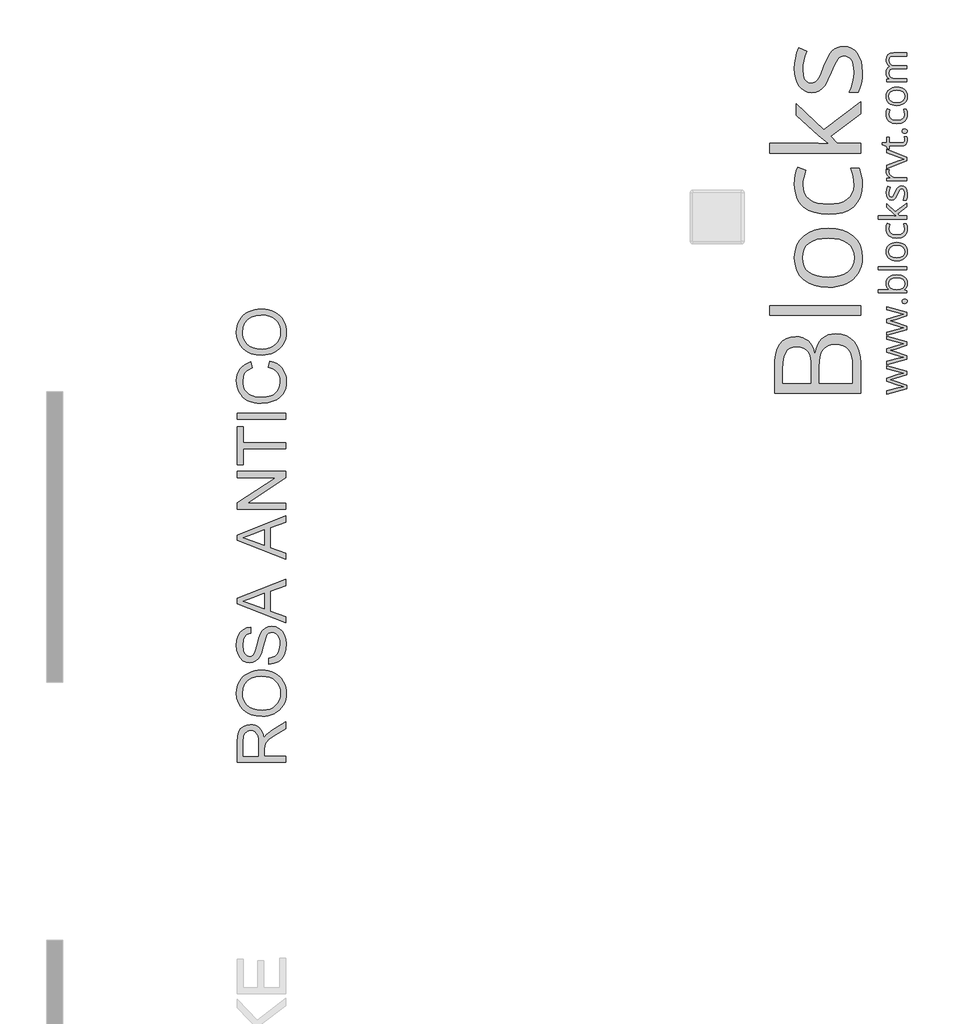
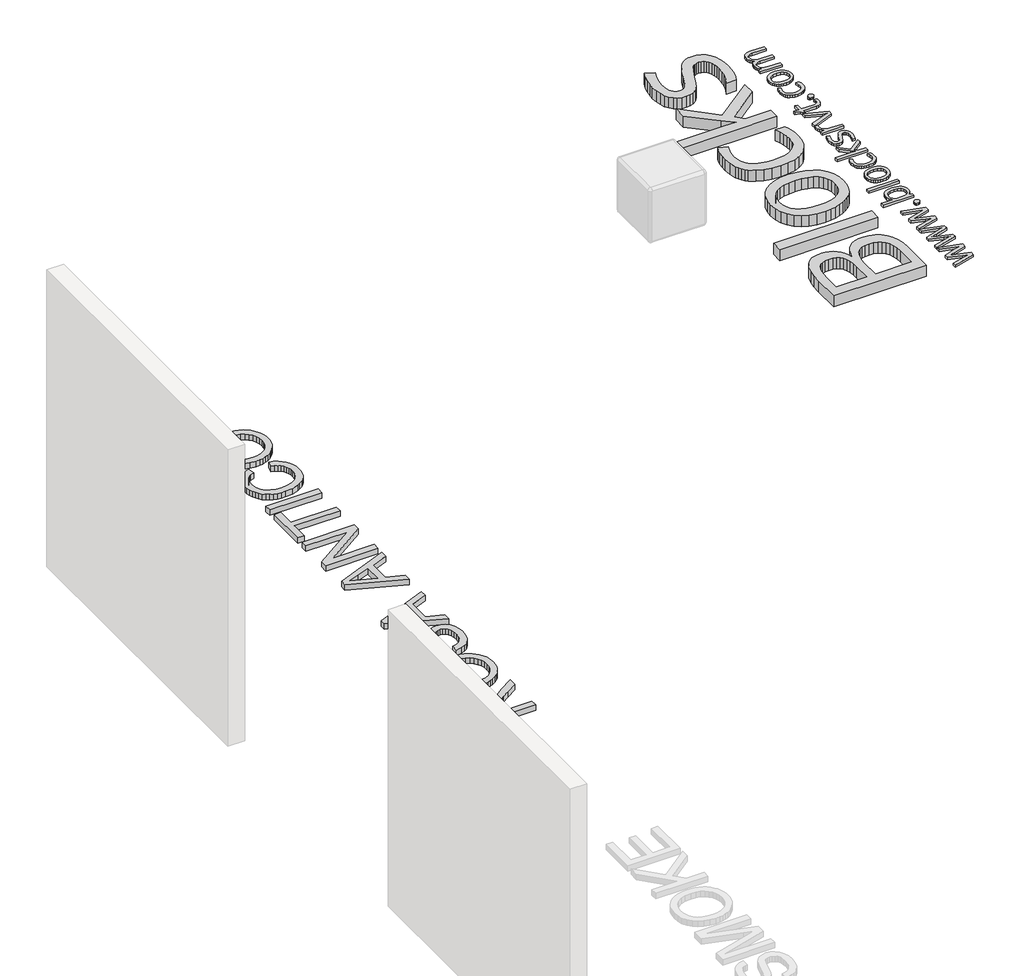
# One storey, part 6 of 6: 3 proxies.
"""IFC4 building model written with IfcOpenShell, lengths in millimetres."""

from ifc_helpers import new_model, si_unit, origin, origin_with_axes, place, context, project, spatial, polyline, outline, extrude, element, save

model = new_model("IFC4")

# Units and contexts
model_context = context("Model", 3, world=origin())
ifc_project = project(units=[si_unit("LENGTHUNIT", "METRE", prefix="MILLI")], contexts=[model_context])

# Site, building, storey
site = spatial("IfcSite", under=ifc_project)
building = spatial("IfcBuilding", under=site)
storey = spatial("IfcBuildingStorey", under=building, Name="PORTOBELLO - SHOWROOM", Elevation=0.0)

# Proxies
placement = place(None, origin())
element("IfcBuildingElementProxy", 1, Name="25mm OpenSans", ObjectType="25mm OpenSans", at=placement, inside=storey, context=model_context, shape_type="SweptSolid", body=[
    extrude(outline(polyline([(-7943.5494981, 11583.3703802), (-8053.3611414, 11548.8902738), (-8099.0847608, 11536.672323), (-8052.9863577, 11523.2550642), (-7943.5494981, 11487.7255632), (-7943.5494981, 11454.8195486), (-8130.6415539, 11403.4741727), (-8130.6415539, 11433.3069605), (-8023.3034834, 11461.0409591), (-7973.6071561, 11471.9846451), (-7998.7926252, 11479.4053636), (-8023.3034834, 11486.7511254), (-8130.6415539, 11521.2312319), (-8130.6415539, 11552.1134142), (-8023.2285267, 11585.7689963), (-7973.9069831, 11598.8114714), (-7992.8710417, 11603.9085306), (-8130.6415539, 11639.6629018), (-8130.6415539, 11669.1958626), (-7943.5494981, 11617.1758759), (-7943.5494981, 11583.3703802)])), origin_with_axes(), (0.0, 0.0, 1.0), 20.0),
    extrude(outline(polyline([(-7943.5494981, 11856.8126157), (-8053.3611414, 11822.3325092), (-8099.0847608, 11810.1145585), (-8052.9863577, 11796.6972996), (-7943.5494981, 11761.1677987), (-7943.5494981, 11728.261784), (-8130.6415539, 11676.9164081), (-8130.6415539, 11706.7491959), (-8023.3034834, 11734.4831945), (-7973.6071561, 11745.4268805), (-7998.7926252, 11752.8475991), (-8023.3034834, 11760.1933609), (-8130.6415539, 11794.6734673), (-8130.6415539, 11825.5556496), (-8023.2285267, 11859.2112318), (-7973.9069831, 11872.2537068), (-7992.8710417, 11877.350766), (-8130.6415539, 11913.1051373), (-8130.6415539, 11942.638098), (-7943.5494981, 11890.6181113), (-7943.5494981, 11856.8126157)])), origin_with_axes(), (0.0, 0.0, 1.0), 20.0),
    extrude(outline(polyline([(-7943.5494981, 12130.2548511), (-8053.3611414, 12095.7747446), (-8099.0847608, 12083.5567939), (-8052.9863577, 12070.1395351), (-7943.5494981, 12034.6100341), (-7943.5494981, 12001.7040195), (-8130.6415539, 11950.3586436), (-8130.6415539, 11980.1914313), (-8023.3034834, 12007.92543), (-7973.6071561, 12018.8691159), (-7998.7926252, 12026.2898345), (-8023.3034834, 12033.6355963), (-8130.6415539, 12068.1157027), (-8130.6415539, 12098.997885), (-8023.2285267, 12132.6534672), (-7973.9069831, 12145.6959422), (-7992.8710417, 12150.7930014), (-8130.6415539, 12186.5473727), (-8130.6415539, 12216.0803334), (-7943.5494981, 12164.0603467), (-7943.5494981, 12130.2548511)])), origin_with_axes(), (0.0, 0.0, 1.0), 20.0),
    extrude(outline(polyline([(-7962.6634701, 12245.2385104), (-7973.0730892, 12246.540884), (-7980.6156125, 12250.4480047), (-7985.1973441, 12256.79122), (-7986.7245879, 12265.401877), (-7985.1973441, 12274.265513), (-7980.6156125, 12280.9179249), (-7973.0730892, 12285.0780247), (-7962.6634701, 12286.4647246), (-7952.4599821, 12285.0499159), (-7944.936198, 12280.8054897), (-7940.2982489, 12274.1249691), (-7938.7522659, 12265.401877), (-7944.336544, 12250.972702), (-7951.7104146, 12246.6720583), (-7962.6634701, 12245.2385104)])), origin_with_axes(), (0.0, 0.0, 1.0), 20.0),
    extrude(outline(polyline([(-8135.4387861, 12433.604831), (-8133.8389279, 12451.1892168), (-8129.0393533, 12466.6888679), (-8121.0400623, 12480.1037843), (-8109.8410549, 12491.433966), (-8095.7187341, 12500.4358036), (-8078.949503, 12506.8656876), (-8037.4703098, 12512.0095948), (-7995.8505726, 12506.8188396), (-7978.9618792, 12500.3303957), (-7964.6873025, 12491.2465742), (-7953.340724, 12479.8625173), (-7945.236025, 12466.4733672), (-7940.3732057, 12451.0791241), (-7938.7522659, 12433.6797877), (-7940.4669016, 12416.036842), (-7945.6108088, 12399.9867272), (-7954.3151618, 12385.979184), (-7966.7111348, 12374.4639528), (-7966.7111348, 12372.3651637), (-7943.5494981, 12366.3686234), (-7943.5494981, 12346.0553433), (-8207.3972691, 12346.0553433), (-8207.3972691, 12374.388996), (-8144.8083803, 12374.388996), (-8107.0301767, 12373.0397745), (-8119.4589433, 12385.5950306), (-8128.3366338, 12399.1996813), (-8133.663248, 12415.2029481), (-8135.4387861, 12433.604831)]), holes=[polyline([(-8111.4526251, 12429.6321231), (-8107.2175686, 12404.3623277), (-8094.5123989, 12387.3190359), (-8071.7817635, 12377.621506), (-8037.4703098, 12374.388996), (-8003.0183121, 12377.7152019), (-7980.0159585, 12387.6938197), (-7967.0578098, 12404.9994601), (-7962.7384269, 12430.3067339), (-7967.5825071, 12453.3840442), (-7982.1147476, 12469.6965076), (-8005.7167552, 12479.3940376), (-8037.7701368, 12482.6265475), (-8070.2170413, 12479.3940376), (-8093.2006557, 12469.6965076), (-8106.8896328, 12453.2153915), (-8111.4526251, 12429.6321231)])]), origin_with_axes(), (0.0, 0.0, 1.0), 20.0),
    extrude(outline(polyline([(-7943.5494981, 12589.2900072), (-7943.5494981, 12560.9563546), (-8207.3972691, 12560.9563546), (-8207.3972691, 12589.2900072), (-7943.5494981, 12589.2900072)])), origin_with_axes(), (0.0, 0.0, 1.0), 20.0),
    extrude(outline(polyline([(-8037.2454395, 12814.2352234), (-8015.3182468, 12812.7946483), (-7995.9348989, 12808.472923), (-7979.0953959, 12801.2700475), (-7964.7997376, 12791.1860218), (-7953.4039687, 12778.5675209), (-7945.2641338, 12763.7612198), (-7940.3802329, 12746.7671184), (-7938.7522659, 12727.5852168), (-7941.7411664, 12703.8895132), (-7950.707868, 12683.023427), (-7965.2588477, 12665.7927434), (-7985.0005826, 12653.0032474), (-8009.230353, 12645.0765708), (-8037.2454395, 12642.4343452), (-8059.1632626, 12643.8632083), (-8078.5185017, 12648.1497976), (-8095.3111568, 12655.2941132), (-8109.5412279, 12665.2961549), (-8120.8714096, 12677.8373567), (-8128.9643966, 12692.5991523), (-8133.8201887, 12709.5815416), (-8135.4387861, 12728.7845248), (-8133.7827103, 12747.3808268), (-8128.8144831, 12763.9673508), (-8120.5341042, 12778.5440969), (-8108.9415739, 12791.1110651), (-8094.5241109, 12801.2278843), (-8077.7689342, 12808.4541838), (-8058.6760437, 12812.7899635), (-8037.2454395, 12814.2352234)]), holes=[polyline([(-8037.4703098, 12671.8923492), (-8005.3138627, 12675.4715342), (-7981.8523989, 12686.209089), (-7967.5169199, 12703.8801436), (-7962.7384269, 12728.2598276), (-7967.4981807, 12752.6582507), (-7981.7774422, 12770.3855228), (-8005.2201667, 12781.1792953), (-8037.4703098, 12784.7772194), (-8069.392517, 12781.1792953), (-8092.6010017, 12770.3855228), (-8106.7397193, 12752.5645548), (-8111.4526251, 12727.8850438), (-8106.8053064, 12703.5522078), (-8092.8633503, 12686.0216972), (-8069.7204528, 12675.4246862), (-8037.4703098, 12671.8923492)])]), origin_with_axes(), (0.0, 0.0, 1.0), 20.0),
    extrude(outline(polyline([(-7938.7522659, 12939.6378714), (-7940.3380697, 12920.2943443), (-7945.0954811, 12903.2651069), (-7953.0245002, 12888.5501593), (-7964.1251268, 12876.1495015), (-7978.1256429, 12866.3114276), (-7994.7543301, 12859.284232), (-8035.896218, 12853.6624755), (-8058.3434231, 12855.0889963), (-8078.0875004, 12859.3685584), (-8095.1284497, 12866.5011619), (-8109.4662712, 12876.4868069), (-8120.8292464, 12889.1099926), (-8128.9456574, 12904.1552184), (-8133.8155039, 12921.6224842), (-8135.4387861, 12941.5117902), (-8132.6653862, 12968.75857), (-8126.1441487, 12990.0837662), (-8102.682685, 12981.3138261), (-8108.9415739, 12960.5882839), (-8111.4526251, 12940.7622227), (-8106.7631432, 12915.54396), (-8092.6946976, 12897.5309153), (-8069.2472883, 12886.7230885), (-8036.4209152, 12883.1204795), (-8004.9578181, 12886.6340773), (-7981.7774422, 12897.1748707), (-7967.4981807, 12914.6116854), (-7962.7384269, 12938.8133471), (-7965.2682173, 12962.7807689), (-7972.8575886, 12987.3103664), (-7948.1968168, 12987.3103664), (-7941.1134036, 12965.9102134), (-7938.7522659, 12939.6378714)])), origin_with_axes(), (0.0, 0.0, 1.0), 20.0),
    extrude(outline(polyline([(-8037.395353, 13058.8940656), (-8065.2792652, 13081.7558753), (-8130.6415539, 13141.7212778), (-8130.6415539, 13175.077033), (-8050.8875686, 13099.8204528), (-7943.5494981, 13180.3240057), (-7943.5494981, 13146.218683), (-8029.8996777, 13080.631524), (-8011.910057, 13059.6436331), (-7943.5494981, 13059.6436331), (-7943.5494981, 13031.6098075), (-8207.3972691, 13031.6098075), (-8207.3972691, 13059.6436331), (-8066.4036165, 13059.6436331), (-8037.395353, 13058.8940656)])), origin_with_axes(), (0.0, 0.0, 1.0), 20.0),
    extrude(outline(polyline([(-7993.995393, 13340.5815439), (-7970.5058204, 13335.6812461), (-7953.1064841, 13320.9803529), (-7942.3408205, 13297.4345629), (-7938.7522659, 13265.9995745), (-7941.7130576, 13232.7000369), (-7950.5954329, 13207.6082638), (-7977.1301235, 13207.6082638), (-7966.5986997, 13236.7664408), (-7962.7384269, 13266.749142), (-7964.5186498, 13286.5658337), (-7969.8593184, 13301.1917701), (-7978.8541288, 13310.2146893), (-7991.5967769, 13313.222329), (-8001.8845912, 13310.8330825), (-8010.5608354, 13303.665343), (-8029.1501102, 13266.449315), (-8046.3901634, 13229.0458952), (-8063.068041, 13212.5179312), (-8085.4426318, 13207.0835666), (-8106.168174, 13211.7683636), (-8122.0215273, 13225.8227548), (-8132.0844714, 13248.0474321), (-8135.4387861, 13277.2430875), (-8132.3280809, 13307.2820063), (-8122.9959651, 13336.6837927), (-8099.8343284, 13326.4896743), (-8108.5480509, 13299.4302864), (-8111.4526251, 13275.0693416), (-8109.8504245, 13257.2483736), (-8105.0438227, 13244.4120296), (-8097.4076035, 13236.6540057), (-8087.3165506, 13234.0679977), (-8074.3115539, 13237.9282705), (-8064.1174355, 13250.4085699), (-8050.0630443, 13283.464498), (-8037.7326584, 13311.5451716), (-8025.3273158, 13328.7758553), (-8011.2729246, 13337.6301217), (-7993.995393, 13340.5815439)])), origin_with_axes(), (0.0, 0.0, 1.0), 20.0),
    extrude(outline(polyline([(-8135.4387861, 13473.0301267), (-8133.5648673, 13495.6670661), (-8108.9040955, 13491.6943582), (-8111.4526251, 13471.0062943), (-8106.7584584, 13449.6717285), (-8092.6759585, 13431.6914773), (-8071.585002, 13419.464157), (-8045.8654661, 13415.3883835), (-7943.5494981, 13415.3883835), (-7943.5494981, 13387.0547308), (-8130.6415539, 13387.0547308), (-8130.6415539, 13410.4412378), (-8097.0609285, 13413.6643782), (-8113.3827615, 13426.6506357), (-8125.4695379, 13440.4239391), (-8132.9464741, 13455.9962045), (-8135.4387861, 13473.0301267)])), origin_with_axes(), (0.0, 0.0, 1.0), 20.0),
    extrude(outline(polyline([(-7943.5494981, 13572.6476516), (-8130.6415539, 13500.6891686), (-8130.6415539, 13531.4963941), (-8019.7055593, 13572.3478246), (-7969.1847077, 13588.5384832), (-8006.6630842, 13601.9557421), (-8130.6415539, 13647.3795344), (-8130.6415539, 13678.18676), (-7943.5494981, 13606.228277), (-7943.5494981, 13572.6476516)])), origin_with_axes(), (0.0, 0.0, 1.0), 20.0),
    extrude(outline(polyline([(-7962.7384269, 13769.5590421), (-7963.8627782, 13784.2505657), (-7966.1864375, 13795.4940786), (-7943.9992386, 13795.4940786), (-7940.251401, 13781.7769928), (-7938.7522659, 13765.5113774), (-7942.3127117, 13741.5064772), (-7952.994049, 13724.3601199), (-7970.7962779, 13714.0723055), (-7995.7193983, 13710.6430341), (-8106.6553929, 13710.6430341), (-8106.6553929, 13683.5086895), (-8120.6723057, 13683.5086895), (-8132.8152998, 13710.4931206), (-8173.8166437, 13722.5611578), (-8173.8166437, 13739.0516435), (-8130.6415539, 13739.0516435), (-8130.6415539, 13794.1448571), (-8106.6553929, 13794.1448571), (-8106.6553929, 13739.0516435), (-7997.4434036, 13739.0516435), (-7982.6113361, 13741.0848455), (-7971.6957589, 13747.1844512), (-7964.9777599, 13756.8445028), (-7962.7384269, 13769.5590421)])), origin_with_axes(), (0.0, 0.0, 1.0), 20.0),
    extrude(outline(polyline([(-7962.6634701, 13828.3251365), (-7973.0730892, 13829.6275101), (-7980.6156125, 13833.5346308), (-7985.1973441, 13839.8778461), (-7986.7245879, 13848.4885031), (-7985.1973441, 13857.3521392), (-7980.6156125, 13864.004551), (-7973.0730892, 13868.1646508), (-7962.6634701, 13869.5513507), (-7952.4599821, 13868.136542), (-7944.936198, 13863.8921159), (-7940.2982489, 13857.2115952), (-7938.7522659, 13848.4885031), (-7944.336544, 13834.0593281), (-7951.7104146, 13829.7586844), (-7962.6634701, 13828.3251365)])), origin_with_axes(), (0.0, 0.0, 1.0), 20.0),
    extrude(outline(polyline([(-7938.7522659, 14004.6234199), (-7940.3380697, 13985.2798928), (-7945.0954811, 13968.2506554), (-7953.0245002, 13953.5357078), (-7964.1251268, 13941.13505), (-7978.1256429, 13931.2969761), (-7994.7543301, 13924.2697805), (-8035.896218, 13918.648024), (-8058.3434231, 13920.0745447), (-8078.0875004, 13924.3541069), (-8095.1284497, 13931.4867104), (-8109.4662712, 13941.4723554), (-8120.8292464, 13954.0955411), (-8128.9456574, 13969.1407669), (-8133.8155039, 13986.6080327), (-8135.4387861, 14006.4973387), (-8132.6653862, 14033.7441185), (-8126.1441487, 14055.0693147), (-8102.682685, 14046.2993746), (-8108.9415739, 14025.5738324), (-8111.4526251, 14005.7477712), (-8106.7631432, 13980.5295085), (-8092.6946976, 13962.5164638), (-8069.2472883, 13951.708637), (-8036.4209152, 13948.106028), (-8004.9578181, 13951.6196258), (-7981.7774422, 13962.1604192), (-7967.4981807, 13979.5972339), (-7962.7384269, 14003.7988956), (-7965.2682173, 14027.7663174), (-7972.8575886, 14052.2959149), (-7948.1968168, 14052.2959149), (-7941.1134036, 14030.8957618), (-7938.7522659, 14004.6234199)])), origin_with_axes(), (0.0, 0.0, 1.0), 20.0),
    extrude(outline(polyline([(-8037.2454395, 14258.2021157), (-8015.3182468, 14256.7615406), (-7995.9348989, 14252.4398153), (-7979.0953959, 14245.2369398), (-7964.7997376, 14235.1529141), (-7953.4039687, 14222.5344132), (-7945.2641338, 14207.7281121), (-7940.3802329, 14190.7340107), (-7938.7522659, 14171.5521091), (-7941.7411664, 14147.8564055), (-7950.707868, 14126.9903194), (-7965.2588477, 14109.7596357), (-7985.0005826, 14096.9701397), (-8009.230353, 14089.0434631), (-8037.2454395, 14086.4012375), (-8059.1632626, 14087.8301006), (-8078.5185017, 14092.11669), (-8095.3111568, 14099.2610055), (-8109.5412279, 14109.2630472), (-8120.8714096, 14121.804249), (-8128.9643966, 14136.5660446), (-8133.8201887, 14153.548434), (-8135.4387861, 14172.7514171), (-8133.7827103, 14191.3477191), (-8128.8144831, 14207.9342431), (-8120.5341042, 14222.5109892), (-8108.9415739, 14235.0779574), (-8094.5241109, 14245.1947766), (-8077.7689342, 14252.4210761), (-8058.6760437, 14256.7568558), (-8037.2454395, 14258.2021157)]), holes=[polyline([(-8037.4703098, 14115.8592415), (-8005.3138627, 14119.4384265), (-7981.8523989, 14130.1759814), (-7967.5169199, 14147.8470359), (-7962.7384269, 14172.2267199), (-7967.4981807, 14196.625143), (-7981.7774422, 14214.3524151), (-8005.2201667, 14225.1461876), (-8037.4703098, 14228.7441117), (-8069.392517, 14225.1461876), (-8092.6010017, 14214.3524151), (-8106.7397193, 14196.5314471), (-8111.4526251, 14171.8519361), (-8106.8053064, 14147.5191001), (-8092.8633503, 14129.9885895), (-8069.7204528, 14119.3915785), (-8037.4703098, 14115.8592415)])]), origin_with_axes(), (0.0, 0.0, 1.0), 20.0),
    extrude(outline(polyline([(-7943.5494981, 14547.2353558), (-8066.3286597, 14547.2353558), (-8086.0703946, 14544.8367397), (-8100.1716338, 14537.6408914), (-8108.6323773, 14525.3854623), (-8111.4526251, 14507.8081036), (-8107.6204611, 14484.7401629), (-8096.1239691, 14468.6057218), (-8076.6633221, 14459.1049533), (-8048.938693, 14455.9380305), (-7943.5494981, 14455.9380305), (-7943.5494981, 14427.529421), (-8066.3286597, 14427.529421), (-8086.0703946, 14425.1308049), (-8100.1716338, 14417.9349566), (-8108.6323773, 14405.6420491), (-8111.4526251, 14387.9522554), (-8107.4236996, 14364.7718795), (-8095.3369232, 14348.7498735), (-8074.0866837, 14339.4177577), (-8042.567369, 14336.3070525), (-7943.5494981, 14336.3070525), (-7943.5494981, 14307.9733998), (-8130.6415539, 14307.9733998), (-8130.6415539, 14331.0600798), (-8106.6553929, 14335.6324417), (-8118.7327998, 14346.7166716), (-8127.8306757, 14359.7310378), (-8133.5367585, 14375.2564553), (-8135.4387861, 14392.5246173), (-8133.4711713, 14412.6223968), (-8127.568327, 14428.916121), (-8117.7302532, 14441.40579), (-8103.9569498, 14450.0914037), (-8116.9806857, 14461.7190701), (-8126.968673, 14475.7640917), (-8133.3212578, 14492.8073834), (-8135.4387861, 14512.0806386), (-8131.3349039, 14539.936442), (-8119.0232572, 14559.7906119), (-8097.6793217, 14571.6806269), (-8066.4785732, 14575.6439652), (-7943.5494981, 14575.6439652), (-7943.5494981, 14547.2353558)])), origin_with_axes(), (0.0, 0.0, 1.0), 20.0),
])
element("IfcBuildingElementProxy", 2, Name="450mm Arial", ObjectType="450mm Arial", at=placement, inside=storey, context=model_context, shape_type="SweptSolid", body=[
    extrude(outline(polyline([(-13720.1829319, 7978.7709195), (-14169.8390747, 7978.7709195), (-14169.8390747, 8172.53144), (-14166.8064207, 8224.6080105), (-14157.7084586, 8262.4956024), (-14140.9122208, 8290.1874388), (-14114.7847399, 8311.676743), (-14082.3861146, 8325.4677715), (-14046.7764438, 8330.0647811), (-14023.6816169, 8328.1607958), (-14002.4804835, 8322.4488399), (-13983.1730435, 8312.9289135), (-13965.759297, 8299.6010165), (-13950.7950019, 8282.2936187), (-13938.8359159, 8260.83519), (-13929.8820392, 8235.2257302), (-13923.9333716, 8205.4652395), (-13899.891698, 8237.4110251), (-13842.0379901, 8282.9694477), (-13720.1829319, 8357.9487313), (-13720.1829319, 8292.6300289), (-13813.3855846, 8234.1176451), (-13875.081569, 8191.8526024), (-13893.071657, 8176.1404355), (-13904.2279816, 8162.1572932), (-13914.9314664, 8135.4260259), (-13916.9074944, 8102.8215644), (-13916.9074944, 8034.9779373), (-13720.1829319, 8034.9779373), (-13720.1829319, 7978.7709195)]), holes=[polyline([(-13973.1145122, 8034.9779373), (-13973.1145122, 8160.7850515), (-13975.1042626, 8196.9161741), (-13981.0735138, 8224.9510709), (-13991.4202158, 8246.0561474), (-14006.5423188, 8261.3978091), (-14024.8342999, 8270.7427747), (-14044.6906365, 8273.8577632), (-14059.0648678, 8272.3723116), (-14072.1080246, 8267.9159569), (-14094.2011152, 8250.0905379), (-14102.7021522, 8236.4813314), (-14108.7743214, 8219.4209371), (-14113.6320569, 8174.9465853), (-14113.6320569, 8034.9779373), (-13973.1145122, 8034.9779373)])]), origin_with_axes(), (0.0, 0.0, 1.0), 50.0),
    extrude(outline(polyline([(-13939.0829194, 8407.3494306), (-13991.8250271, 8411.0956503), (-14038.5155491, 8422.3343094), (-14079.1544855, 8441.0654079), (-14113.7418362, 8467.2889457), (-14141.3581994, 8499.4337063), (-14161.084173, 8535.9284729), (-14172.9197572, 8576.7732455), (-14176.864952, 8621.9680242), (-14175.0124257, 8652.2190913), (-14169.4548471, 8680.9469701), (-14160.192216, 8708.1516608), (-14147.2245324, 8733.8331632), (-14130.9428853, 8757.2710505), (-14111.7383634, 8777.7448959), (-14089.6109669, 8795.2546993), (-14064.5606956, 8809.8004608), (-14037.1570299, 8821.2312337), (-14007.9694501, 8829.3960715), (-13976.9979561, 8834.2949742), (-13944.242548, 8835.9279417), (-13911.0548838, 8834.2092091), (-13879.6648561, 8829.0530111), (-13850.072465, 8820.4593478), (-13822.2777104, 8808.4282191), (-13797.0147417, 8793.2443653), (-13775.0177081, 8775.1925264), (-13756.2866096, 8754.2727025), (-13740.8214463, 8730.4848936), (-13728.718275, 8704.7656545), (-13720.0731526, 8678.0515403), (-13714.8860792, 8650.3425508), (-13713.1570547, 8621.6386862), (-13715.0679012, 8590.859306), (-13720.8004407, 8561.7540607), (-13730.3546731, 8534.3229502), (-13743.7305986, 8508.5659745), (-13760.4101958, 8485.155532), (-13779.8754435, 8464.7640211), (-13802.1263418, 8447.3914419), (-13827.1628907, 8433.0377942), (-13853.9799231, 8421.7991351), (-13881.572272, 8413.7715215), (-13909.9399374, 8408.9549533), (-13939.0829194, 8407.3494306)]), holes=[polyline([(-13938.5340227, 8463.5564485), (-13901.2708008, 8466.3661132), (-13868.1929159, 8474.7951075), (-13839.3003681, 8488.8434314), (-13814.5931572, 8508.5110848), (-13794.8054327, 8532.4189649), (-13780.6713437, 8559.1879688), (-13772.1908903, 8588.8180966), (-13769.3640725, 8621.3093482), (-13772.2183352, 8654.3563576), (-13780.781123, 8684.336407), (-13795.0524362, 8711.2494963), (-13815.0322745, 8735.0956255), (-13840.2609372, 8754.6191936), (-13870.2787232, 8768.5645993), (-13905.0856326, 8776.9318427), (-13944.6816653, 8779.7209239), (-13994.4391474, 8774.9455229), (-14037.4452006, 8760.6193202), (-14072.6157541, 8737.1128207), (-14098.8667368, 8704.79653), (-14115.2101348, 8665.8111448), (-14120.6579341, 8622.2973622), (-14118.033522, 8590.9347793), (-14110.1602855, 8561.8363952), (-14097.0382248, 8535.0022098), (-14078.6673397, 8510.4322231), (-14054.1625345, 8489.9240717), (-14022.6387133, 8475.2753921), (-13984.095876, 8466.4861844), (-13938.5340227, 8463.5564485)])]), origin_with_axes(), (0.0, 0.0, 1.0), 50.0),
    extrude(outline(polyline([(-13874.752231, 8892.1349596), (-13874.752231, 8948.3419774), (-13843.5611784, 8954.7915132), (-13818.4903235, 8966.4555672), (-13798.5928196, 8984.6514914), (-13782.92182, 9010.6966379), (-13772.7535094, 9042.5326441), (-13769.3640725, 9078.1011476), (-13771.9301644, 9109.4157019), (-13779.6284401, 9136.83309), (-13791.8139459, 9159.0496823), (-13807.8417283, 9174.7618492), (-13826.2434888, 9184.1068148), (-13845.5509288, 9187.2218033), (-13864.3643617, 9184.8889925), (-13880.6254253, 9177.8905601), (-13894.4987883, 9163.6741366), (-13906.1491199, 9139.6873527), (-13927.6109792, 9057.8468608), (-13941.8136803, 9004.1236004), (-13955.3302605, 8969.7489471), (-13974.2397504, 8941.7689399), (-13997.1561859, 8921.9400481), (-14023.58556, 8910.1250476), (-14053.0338658, 8906.186714), (-14085.9539429, 8911.0581719), (-14116.6509885, 8925.6725454), (-14142.6686901, 8949.645607), (-14161.5507352, 8982.5931289), (-14173.0363978, 9022.1411332), (-14176.864952, 9065.9156417), (-14172.8580064, 9113.340313), (-14160.8371695, 9154.8369004), (-14141.049445, 9188.9233829), (-14113.7418362, 9214.1177396), (-14080.6159229, 9230.0631875), (-14043.3732846, 9236.4029439), (-14043.3732846, 9180.1959261), (-14061.3084829, 9176.435984), (-14076.9108704, 9169.8766689), (-14090.1804471, 9160.5179809), (-14101.1172131, 9148.3599199), (-14109.6662785, 9133.176066), (-14115.7727538, 9114.7399995), (-14120.6579341, 9068.1112284), (-14115.8276435, 9020.3846639), (-14109.7897803, 9002.1407112), (-14101.3367717, 8987.6429782), (-14080.0121365, 8968.7060435), (-14067.8472143, 8963.9718098), (-14054.6805557, 8962.3937319), (-14033.0814722, 8966.8672397), (-14015.708893, 8980.287763), (-14000.1751175, 9012.0139898), (-13984.3120041, 9072.0632843), (-13969.2447908, 9134.0337171), (-13956.0987158, 9171.5233589), (-13935.707205, 9203.5652013), (-13910.5402932, 9225.9190177), (-13880.8724288, 9239.0513703), (-13846.9780601, 9243.4288212), (-13812.3289585, 9238.3926943), (-13779.7382194, 9223.2843138), (-13751.6896001, 9198.7211883), (-13730.6668581, 9165.3208266), (-13717.5345055, 9125.1553136), (-13713.1570547, 9080.2967342), (-13717.8775659, 9025.2286769), (-13732.0390997, 8979.9035353), (-13742.6739725, 8960.7641949), (-13755.6965457, 8943.7998576), (-13771.1068194, 8929.0105232), (-13788.9047936, 8916.3961919), (-13829.3584773, 8898.804054), (-13874.752231, 8892.1349596)])), origin_with_axes(), (0.0, 0.0, 1.0), 50.0),
    extrude(outline(polyline([(-13720.1829319, 9275.3746067), (-14169.8390747, 9454.8638141), (-14169.8390747, 9502.7276027), (-13720.1829319, 9682.2168101), (-13720.1829319, 9622.8261917), (-13860.7004765, 9571.3396851), (-13860.7004765, 9386.1419524), (-13720.1829319, 9334.7652252), (-13720.1829319, 9275.3746067)]), holes=[polyline([(-13916.9074944, 9406.7804668), (-13916.9074944, 9550.81095), (-14027.4552815, 9510.3023766), (-14113.6320569, 9478.7957084), (-14037.1158627, 9450.8019788), (-13916.9074944, 9406.7804668)])]), origin_with_axes(), (0.0, 0.0, 1.0), 50.0),
    extrude(outline(polyline([(-13720.1829319, 9865.5482941), (-14169.8390747, 10045.0375015), (-14169.8390747, 10092.9012902), (-13720.1829319, 10272.3904976), (-13720.1829319, 10212.9998791), (-13860.7004765, 10161.5133725), (-13860.7004765, 9976.3156399), (-13720.1829319, 9924.9389126), (-13720.1829319, 9865.5482941)]), holes=[polyline([(-13916.9074944, 9996.9541542), (-13916.9074944, 10140.9846375), (-14027.4552815, 10100.4760641), (-14113.6320569, 10068.9693959), (-14037.1158627, 10040.9756663), (-13916.9074944, 9996.9541542)])]), origin_with_axes(), (0.0, 0.0, 1.0), 50.0),
    extrude(outline(polyline([(-13720.1829319, 10332.439792), (-14169.8390747, 10332.439792), (-14169.8390747, 10392.5988658), (-13813.6051432, 10627.5266358), (-14169.8390747, 10627.5266358), (-14169.8390747, 10683.7336536), (-13720.1829319, 10683.7336536), (-13720.1829319, 10623.5745798), (-14076.5266427, 10388.6468099), (-13720.1829319, 10388.6468099), (-13720.1829319, 10332.439792)])), origin_with_axes(), (0.0, 0.0, 1.0), 50.0),
    extrude(outline(polyline([(-13720.1829319, 10894.5099706), (-14113.6320569, 10894.5099706), (-14113.6320569, 10746.9665487), (-14169.8390747, 10746.9665487), (-14169.8390747, 11098.2604103), (-14113.6320569, 11098.2604103), (-14113.6320569, 10950.7169884), (-13720.1829319, 10950.7169884), (-13720.1829319, 10894.5099706)])), origin_with_axes(), (0.0, 0.0, 1.0), 50.0),
    extrude(outline(polyline([(-13720.1829319, 11168.5191826), (-14169.8390747, 11168.5191826), (-14169.8390747, 11224.7262004), (-13720.1829319, 11224.7262004), (-13720.1829319, 11168.5191826)])), origin_with_axes(), (0.0, 0.0, 1.0), 50.0),
    extrude(outline(polyline([(-13880.0216389, 11653.3047116), (-13865.5307671, 11709.5117294), (-13830.5763418, 11698.3897109), (-13800.0336733, 11683.5763623), (-13773.9027618, 11665.0716837), (-13752.1836071, 11642.8756751), (-13735.1094904, 11617.4892046), (-13722.9136928, 11589.4131405), (-13715.5962142, 11558.6474828), (-13713.1570547, 11525.1922314), (-13715.0027197, 11490.9170657), (-13720.5397147, 11459.9970308), (-13729.7680398, 11432.4321267), (-13742.6876949, 11408.2223535), (-13759.1065662, 11387.0349424), (-13778.8325399, 11368.537125), (-13801.8656159, 11352.7289013), (-13828.2057943, 11339.6102711), (-13886.251616, 11321.9495211), (-13948.4141626, 11316.0626045), (-13982.3153925, 11317.7264475), (-14013.9798685, 11322.7179764), (-14043.4075906, 11331.0371914), (-14070.5985588, 11342.6840924), (-14095.103364, 11357.3979535), (-14116.4725971, 11374.9180487), (-14134.706258, 11395.2443781), (-14149.8043467, 11418.3769416), (-14161.6433615, 11443.530131), (-14170.0998006, 11469.9183379), (-14175.1736641, 11497.5415622), (-14176.864952, 11526.3998041), (-14174.6762265, 11558.5479953), (-14168.1100503, 11588.0271764), (-14157.1664231, 11614.8373476), (-14141.8453451, 11638.9785088), (-14122.5516276, 11660.0527099), (-14099.6900817, 11677.6620008), (-14073.2607076, 11691.8063816), (-14043.2635052, 11702.4858522), (-14029.8704268, 11646.2788343), (-14070.8592847, 11626.793003), (-14086.5268537, 11614.374216), (-14098.9765161, 11600.171515), (-14108.4621365, 11584.1025653), (-14115.2375796, 11566.0850325), (-14120.6579341, 11524.2042174), (-14119.1553295, 11498.9892772), (-14114.6475157, 11475.9287563), (-14107.1344927, 11455.0226548), (-14096.6162605, 11436.2709727), (-14083.5662424, 11419.9104217), (-14068.4578619, 11406.1777134), (-14051.2911189, 11395.0728479), (-14032.0660134, 11386.5958251), (-13990.9262088, 11375.851173), (-13948.5239419, 11372.2696223), (-13896.598318, 11376.509849), (-13851.6985713, 11389.2305291), (-13832.3122275, 11398.8911103), (-13815.5400039, 11410.9119471), (-13801.3819008, 11425.2930395), (-13789.8379179, 11442.0343876), (-13774.4825339, 11479.345638), (-13769.3640725, 11519.5934855), (-13771.1068194, 11544.0296786), (-13776.3350601, 11566.5104274), (-13785.0487946, 11587.0357318), (-13797.2480228, 11605.6055919), (-13812.8778552, 11621.7808903), (-13831.883402, 11635.1225097), (-13854.2646632, 11645.6304502), (-13880.0216389, 11653.3047116)])), origin_with_axes(), (0.0, 0.0, 1.0), 50.0),
    extrude(outline(polyline([(-13939.0829194, 11765.7187473), (-13991.8250271, 11769.464967), (-14038.5155491, 11780.7036261), (-14079.1544855, 11799.4347245), (-14113.7418362, 11825.6582624), (-14141.3581994, 11857.803023), (-14161.084173, 11894.2977896), (-14172.9197572, 11935.1425622), (-14176.864952, 11980.3373408), (-14175.0124257, 12010.5884079), (-14169.4548471, 12039.3162868), (-14160.192216, 12066.5209775), (-14147.2245324, 12092.2024799), (-14130.9428853, 12115.6403672), (-14111.7383634, 12136.1142126), (-14089.6109669, 12153.624016), (-14064.5606956, 12168.1697774), (-14037.1570299, 12179.6005504), (-14007.9694501, 12187.7653882), (-13976.9979561, 12192.6642908), (-13944.242548, 12194.2972584), (-13911.0548838, 12192.5785257), (-13879.6648561, 12187.4223277), (-13850.072465, 12178.8286644), (-13822.2777104, 12166.7975358), (-13797.0147417, 12151.613682), (-13775.0177081, 12133.5618431), (-13756.2866096, 12112.6420192), (-13740.8214463, 12088.8542103), (-13728.718275, 12063.1349712), (-13720.0731526, 12036.4208569), (-13714.8860792, 12008.7118675), (-13713.1570547, 11980.0080028), (-13715.0679012, 11949.2286227), (-13720.8004407, 11920.1233774), (-13730.3546731, 11892.6922668), (-13743.7305986, 11866.9352911), (-13760.4101958, 11843.5248486), (-13779.8754435, 11823.1333378), (-13802.1263418, 11805.7607585), (-13827.1628907, 11791.4071109), (-13853.9799231, 11780.1684518), (-13881.572272, 11772.1408382), (-13909.9399374, 11767.32427), (-13939.0829194, 11765.7187473)]), holes=[polyline([(-13938.5340227, 11821.9257651), (-13901.2708008, 11824.7354299), (-13868.1929159, 11833.1644242), (-13839.3003681, 11847.2127481), (-13814.5931572, 11866.8804015), (-13794.8054327, 11890.7882816), (-13780.6713437, 11917.5572855), (-13772.1908903, 11947.1874132), (-13769.3640725, 11979.6786648), (-13772.2183352, 12012.7256743), (-13780.781123, 12042.7057237), (-13795.0524362, 12069.618813), (-13815.0322745, 12093.4649422), (-13840.2609372, 12112.9885102), (-13870.2787232, 12126.933916), (-13905.0856326, 12135.3011594), (-13944.6816653, 12138.0902405), (-13994.4391474, 12133.3148396), (-14037.4452006, 12118.9886368), (-14072.6157541, 12095.4821374), (-14098.8667368, 12063.1658466), (-14115.2101348, 12024.1804614), (-14120.6579341, 11980.6666788), (-14118.033522, 11949.304096), (-14110.1602855, 11920.2057119), (-14097.0382248, 11893.3715265), (-14078.6673397, 11868.8015398), (-14054.1625345, 11848.2933884), (-14022.6387133, 11833.6447088), (-13984.095876, 11824.855501), (-13938.5340227, 11821.9257651)])]), origin_with_axes(), (0.0, 0.0, 1.0), 50.0),
])
element("IfcBuildingElementProxy", 3, Name="80mm OpenSans", ObjectType="80mm OpenSans", at=placement, inside=storey, context=model_context, shape_type="SweptSolid", body=[
    extrude(outline(polyline([(-9172.9329051, 11412.5162261), (-9172.9329051, 11637.4993467), (-9169.9959259, 11711.3294446), (-9161.1849884, 11774.1777943), (-9146.5000925, 11826.0443958), (-9125.9412383, 11866.9292491), (-9099.0427155, 11897.8989809), (-9065.3388139, 11920.0202178), (-9024.8295334, 11933.29296), (-8977.5148741, 11937.7172074), (-8943.8560412, 11935.2459385), (-8913.3069509, 11927.8321318), (-8885.8676033, 11915.4757872), (-8861.5379983, 11898.1769047), (-8840.7538005, 11876.1458052), (-8823.9506741, 11849.5928094), (-8811.1286192, 11818.5179172), (-8802.2876359, 11782.9211287), (-8796.9995711, 11782.9211287), (-8787.0844496, 11825.4547465), (-8773.0830962, 11862.3172153), (-8754.9955109, 11893.508535), (-8732.8216938, 11919.0287057), (-8706.5616447, 11938.8777273), (-8676.2153637, 11953.0555999), (-8641.7828509, 11961.5623235), (-8603.2641062, 11964.397898), (-8552.0284669, 11959.8835132), (-8506.7268777, 11946.3403586), (-8467.3593385, 11923.7684342), (-8433.9258493, 11892.1677402), (-8407.267693, 11852.4696969), (-8388.2261529, 11805.6057249), (-8376.8012288, 11751.5758242), (-8372.9929208, 11690.3799947), (-8372.9929208, 11412.5162261), (-9172.9329051, 11412.5162261)]), holes=[polyline([(-8834.4967579, 11505.5380933), (-8834.4967579, 11657.449773), (-8836.427202, 11702.9316372), (-8842.2185343, 11741.5480308), (-8851.8707549, 11773.298954), (-8865.3838636, 11798.1844067), (-8883.4639375, 11816.9555344), (-8906.8170532, 11830.3634828), (-8935.4432108, 11838.4082519), (-8969.3424103, 11841.0898415), (-9000.5449972, 11838.1002822), (-9027.0904816, 11829.1316041), (-9048.9788634, 11814.1838073), (-9066.2101428, 11793.2568918), (-9079.2500298, 11765.8250556), (-9088.5642349, 11731.3624969), (-9094.1527579, 11689.8692157), (-9096.0155989, 11641.345212), (-9096.0155989, 11505.5380933), (-8834.4967579, 11505.5380933)]), polyline([(-8757.5794517, 11505.5380933), (-8449.9102269, 11505.5380933), (-8449.9102269, 11671.1506682), (-8452.3214042, 11716.2569596), (-8459.554936, 11755.4292009), (-8471.6108224, 11788.6673923), (-8488.4890633, 11815.9715337), (-8510.490117, 11837.2665106), (-8537.9144417, 11852.4772084), (-8570.7620374, 11861.603627), (-8609.0329041, 11864.6457666), (-8644.7273415, 11861.5360239), (-8675.3740807, 11852.206796), (-8700.9731217, 11836.6580827), (-8721.5244644, 11814.8898841), (-8737.2985213, 11786.782017), (-8748.5657049, 11752.2142979), (-8755.326015, 11711.186727), (-8757.5794517, 11663.6993042), (-8757.5794517, 11505.5380933)])]), origin_with_axes(), (0.0, 0.0, 1.0), 100.0),
    extrude(outline(polyline([(-8372.9929208, 12226.1571056), (-8372.9929208, 12135.2985377), (-9219.0832888, 12135.2985377), (-9219.0832888, 12226.1571056), (-8372.9929208, 12226.1571056)])), origin_with_axes(), (0.0, 0.0, 1.0), 100.0),
    extrude(outline(polyline([(-8673.451148, 12947.4972177), (-8603.1364114, 12942.8776725), (-8540.9791156, 12929.0190367), (-8486.9792607, 12905.9213105), (-8441.1368467, 12873.5844938), (-8404.5936148, 12833.120282), (-8378.4913063, 12785.6403707), (-8362.8299212, 12731.1447597), (-8357.6094595, 12669.6334491), (-8360.0056139, 12630.5062765), (-8367.194077, 12593.6475634), (-8379.1748488, 12559.05731), (-8395.9479293, 12526.7355162), (-8417.1978375, 12497.3281672), (-8442.609092, 12471.4812482), (-8472.181693, 12449.1947592), (-8505.9156405, 12430.4687002), (-8543.2475753, 12415.6410867), (-8583.6141381, 12405.0499342), (-8627.015329, 12398.6952427), (-8673.451148, 12396.5770122), (-8743.7358389, 12401.1590001), (-8805.8029972, 12414.904964), (-8859.652623, 12437.8149038), (-8905.2847162, 12469.8888196), (-8941.6176274, 12510.1051533), (-8967.5697067, 12557.442347), (-8983.1409544, 12611.9004007), (-8988.3313702, 12673.4793144), (-8983.0207711, 12733.1127611), (-8967.0889736, 12786.3013788), (-8940.5359777, 12833.0451675), (-8903.3617836, 12873.3441272), (-8857.1287738, 12905.7861043), (-8803.3993314, 12928.9589451), (-8742.1734561, 12942.8626495), (-8673.451148, 12947.4972177)]), holes=[polyline([(-8674.1722478, 12491.0410788), (-8619.1283006, 12493.9104549), (-8571.0549842, 12502.5185831), (-8529.9522987, 12516.8654634), (-8495.8202441, 12536.9510959), (-8469.0043473, 12562.5952056), (-8449.8501353, 12593.6175176), (-8438.3576081, 12630.0180318), (-8434.5267657, 12671.7967483), (-8438.3425852, 12713.5904878), (-8449.7900437, 12750.0360707), (-8468.8691411, 12781.1334973), (-8495.5798775, 12806.8827673), (-8529.6368176, 12827.0735602), (-8570.754526, 12841.4955551), (-8618.9330027, 12850.1487521), (-8674.1722478, 12853.033151), (-8728.8481337, 12850.1487521), (-8776.5383658, 12841.4955551), (-8817.2429442, 12827.0735602), (-8850.9618687, 12806.8827673), (-8877.4097042, 12781.0583827), (-8896.3010152, 12749.7356125), (-8907.6358019, 12712.9144568), (-8911.4140641, 12670.5949154), (-8907.688382, 12628.8537562), (-8896.511336, 12592.5659138), (-8877.8829259, 12561.7313882), (-8851.8031518, 12536.3501795), (-8818.3471282, 12516.5274479), (-8777.5899696, 12502.368354), (-8729.5316762, 12493.8728976), (-8674.1722478, 12491.0410788)])]), origin_with_axes(), (0.0, 0.0, 1.0), 100.0),
    extrude(outline(polyline([(-8357.6094595, 13349.6305091), (-8362.694715, 13287.6009081), (-8377.9504815, 13232.9926253), (-8403.376759, 13185.8056607), (-8438.9735475, 13146.0400143), (-8483.8695181, 13114.4919004), (-8537.193342, 13091.9575334), (-8598.9450191, 13078.4369132), (-8669.1245496, 13073.9300397), (-8741.1068294, 13078.5045163), (-8804.4208893, 13092.2279458), (-8859.0667294, 13115.1003283), (-8905.0443496, 13147.1216639), (-8924.5647451, 13166.3904256), (-8941.4824212, 13187.6008986), (-8955.7973778, 13210.7530829), (-8967.5096151, 13235.8469784), (-8983.1259315, 13291.8599035), (-8988.3313702, 13355.6396737), (-8986.1079794, 13399.3563457), (-8979.4378067, 13443.0129261), (-8969.7630518, 13481.9222666), (-8958.5259141, 13511.3972187), (-8883.291174, 13483.2743286), (-8903.3617836, 13416.8129687), (-8909.4009939, 13382.9513265), (-8911.4140641, 13353.2360078), (-8907.6545805, 13309.9136872), (-8896.3761298, 13272.367676), (-8877.5787119, 13240.5979742), (-8851.262327, 13214.6045818), (-8817.4269748, 13194.3874988), (-8776.0726556, 13179.9467252), (-8727.1993692, 13171.2822611), (-8670.8071156, 13168.3941064), (-8617.0401159, 13171.2109023), (-8569.9132429, 13179.6612899), (-8529.4264968, 13193.7452693), (-8495.5798775, 13213.4628405), (-8468.8691411, 13238.708843), (-8449.7900437, 13269.3781166), (-8438.3425852, 13305.4706612), (-8434.5267657, 13346.9864767), (-8436.5548587, 13385.1897403), (-8442.6391378, 13423.8436912), (-8452.779603, 13462.9483295), (-8466.9762543, 13502.5036552), (-8387.8956488, 13502.5036552), (-8374.645441, 13470.1443041), (-8365.1810069, 13433.878996), (-8359.5023464, 13393.7077311), (-8357.6094595, 13349.6305091)])), origin_with_axes(), (0.0, 0.0, 1.0), 100.0),
    extrude(outline(polyline([(-8673.9318812, 13734.21704), (-8763.3482497, 13805.3655483), (-8972.947909, 13997.6588137), (-8972.947909, 14104.6219426), (-8717.1978659, 13863.2938945), (-8372.9929208, 14121.4476034), (-8372.9929208, 14012.0808086), (-8649.895223, 13801.7600495), (-8592.2072434, 13734.4574066), (-8372.9929208, 13734.4574066), (-8372.9929208, 13644.560305), (-9219.0832888, 13644.560305), (-9219.0832888, 13734.4574066), (-8766.9537484, 13734.4574066), (-8673.9318812, 13729.8904416), (-8673.9318812, 13734.21704)])), origin_with_axes(), (0.0, 0.0, 1.0), 100.0),
    extrude(outline(polyline([(-8534.7596303, 14635.3513553), (-8494.6559684, 14631.422864), (-8459.4347528, 14619.63739), (-8429.0959833, 14599.9949334), (-8403.6396599, 14572.4954942), (-8383.5014473, 14537.9052408), (-8369.1170096, 14496.9903417), (-8360.4863471, 14449.7507969), (-8357.6094595, 14396.1866064), (-8359.9830795, 14339.5051618), (-8367.1039395, 14289.4037524), (-8378.9720395, 14245.8823782), (-8395.5873795, 14208.9410392), (-8480.6771494, 14208.9410392), (-8461.5379603, 14254.0698649), (-8446.9056447, 14302.4436395), (-8437.6214855, 14351.4784222), (-8434.5267657, 14398.5902722), (-8435.9539423, 14432.444403), (-8440.235472, 14462.1371873), (-8447.3713549, 14487.6686252), (-8457.361591, 14509.0387166), (-8470.2812948, 14525.9169575), (-8486.2055808, 14537.9728439), (-8505.1344491, 14545.2063757), (-8527.0678997, 14547.6175529), (-8544.2090416, 14545.7021318), (-8560.0582131, 14539.9558682), (-8574.6154142, 14530.3787622), (-8587.8806449, 14516.9708138), (-8615.4026185, 14471.8119422), (-8647.4915572, 14397.6288059), (-8677.1768301, 14325.4587397), (-8702.775871, 14277.6858816), (-8727.9242247, 14246.6485467), (-8756.2574355, 14224.6850503), (-8789.1576114, 14211.6151174), (-8828.0068602, 14207.2584731), (-8863.1905186, 14211.0142009), (-8894.46822, 14222.2813844), (-8921.8399645, 14241.0600236), (-8945.3057521, 14267.3501185), (-8964.12946, 14300.1902028), (-8977.5749657, 14338.61881), (-8985.6422691, 14382.6359403), (-8988.3313702, 14432.2415937), (-8985.837567, 14480.660437), (-8978.3561571, 14528.5685013), (-8965.8871407, 14575.9657867), (-8948.4305177, 14622.8522931), (-8874.1572439, 14590.1624379), (-8890.4571027, 14545.6946203), (-8902.099859, 14503.3901019), (-8909.0855128, 14463.2488827), (-8911.4140641, 14425.2709628), (-8906.2762284, 14368.123808), (-8899.8539338, 14345.5443722), (-8890.8627213, 14326.9610308), (-8879.6030492, 14312.4488985), (-8866.3753758, 14302.0830896), (-8851.1797009, 14295.8636043), (-8834.0160247, 14293.7904425), (-8811.3314286, 14296.8851623), (-8792.3124228, 14306.1693215), (-8775.5468537, 14322.36402), (-8759.6225676, 14346.1903574), (-8740.6035618, 14386.5118515), (-8714.5538335, 14452.19202), (-8694.813728, 14501.5648182), (-8675.0135308, 14542.2393507), (-8655.153242, 14574.2156175), (-8635.2328615, 14597.4936187), (-8613.9904649, 14614.0563785), (-8590.1641274, 14625.8869212), (-8563.7538493, 14632.9852468), (-8534.7596303, 14635.3513553)])), origin_with_axes(), (0.0, 0.0, 1.0), 100.0),
])

save(model, "model.ifc")
